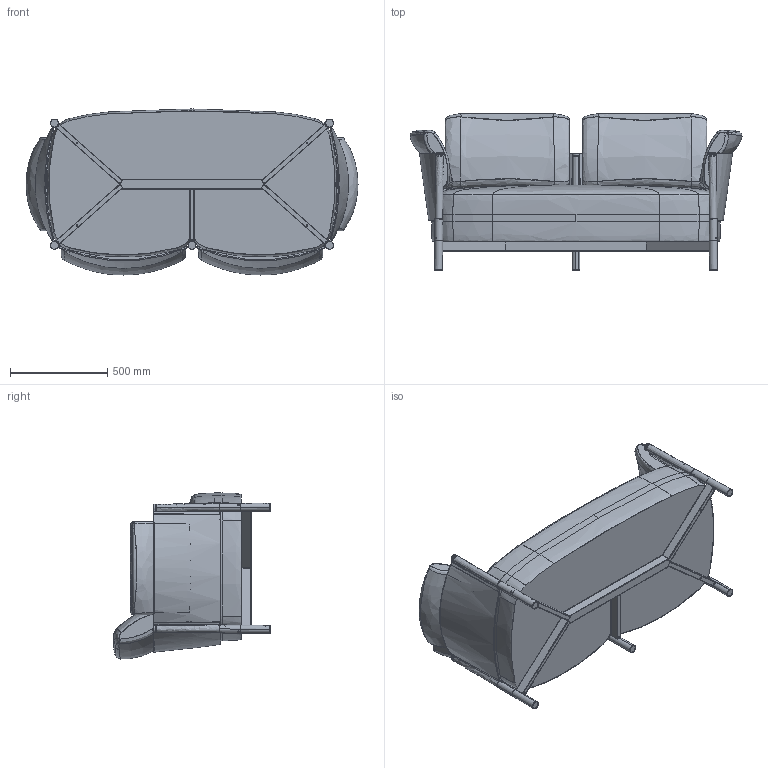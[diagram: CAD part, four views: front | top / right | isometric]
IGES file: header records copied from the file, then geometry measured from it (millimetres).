
Start section: SolidWorks IGES file using analytic representation for surfaces
Global section: file name: C:\Users\furioso\Desktop\FG54202-00-00.IGS; native system: SolidWorks 2020; preprocessor: SolidWorks 2020; author: Furioso; date: 241219.091816; units: millimetre
Bounding box: 1710.96 x 808.47 x 855.93 mm (x, y, z)
Surface area: 11694956.5 mm2 (no closed solid volume)
Topology: 0 solids, 0 shells, 891 faces, 15627 edges, 15601 vertices
Faces by surface type: bspline 583, revolution 308
